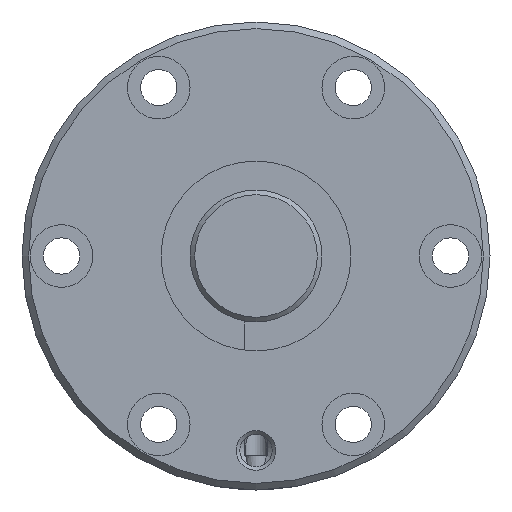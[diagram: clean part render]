
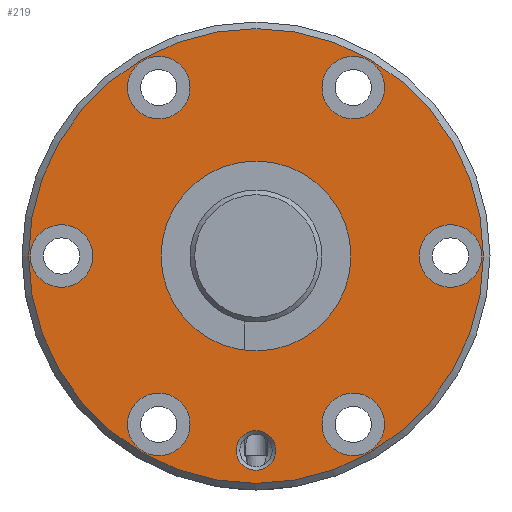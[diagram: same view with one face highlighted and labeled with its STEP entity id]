
A CAD part, left-side view. The second image highlights one B-rep face of the part: STEP entity #219.
In plain terms, the highlighted planar face has unit normal (-1, 0, 0).
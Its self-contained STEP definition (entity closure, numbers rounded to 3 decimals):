
#219 = ADVANCED_FACE( '', ( #390, #391, #392, #393, #394, #395, #396, #397, #398 ), #399, .T. );
#390 = FACE_BOUND( '', #629, .T. );
#391 = FACE_BOUND( '', #630, .T. );
#392 = FACE_BOUND( '', #631, .T. );
#393 = FACE_BOUND( '', #632, .T. );
#394 = FACE_BOUND( '', #633, .T. );
#395 = FACE_BOUND( '', #634, .T. );
#396 = FACE_BOUND( '', #635, .T. );
#397 = FACE_BOUND( '', #636, .T. );
#398 = FACE_OUTER_BOUND( '', #637, .T. );
#399 = PLANE( '', #638 );
#629 = EDGE_LOOP( '', ( #1059 ) );
#630 = EDGE_LOOP( '', ( #1060 ) );
#631 = EDGE_LOOP( '', ( #1061 ) );
#632 = EDGE_LOOP( '', ( #1062 ) );
#633 = EDGE_LOOP( '', ( #1063 ) );
#634 = EDGE_LOOP( '', ( #1064 ) );
#635 = EDGE_LOOP( '', ( #1065 ) );
#636 = EDGE_LOOP( '', ( #1066 ) );
#637 = EDGE_LOOP( '', ( #1067 ) );
#638 = AXIS2_PLACEMENT_3D( '', #1068, #1069, #1070 );
#1059 = ORIENTED_EDGE( '', *, *, #1342, .T. );
#1060 = ORIENTED_EDGE( '', *, *, #1343, .T. );
#1061 = ORIENTED_EDGE( '', *, *, #1265, .T. );
#1062 = ORIENTED_EDGE( '', *, *, #1341, .T. );
#1063 = ORIENTED_EDGE( '', *, *, #1344, .T. );
#1064 = ORIENTED_EDGE( '', *, *, #1345, .T. );
#1065 = ORIENTED_EDGE( '', *, *, #1346, .T. );
#1066 = ORIENTED_EDGE( '', *, *, #1347, .T. );
#1067 = ORIENTED_EDGE( '', *, *, #1348, .F. );
#1068 = CARTESIAN_POINT( '', ( 0., 34.5, 0. ) );
#1069 = DIRECTION( '', ( -1., 0., 0. ) );
#1070 = DIRECTION( '', ( 0., 0., 1. ) );
#1265 = EDGE_CURVE( '', #1419, #1419, #1420, .T. );
#1341 = EDGE_CURVE( '', #1549, #1549, #1550, .T. );
#1342 = EDGE_CURVE( '', #1551, #1551, #1552, .T. );
#1343 = EDGE_CURVE( '', #1553, #1553, #1554, .F. );
#1344 = EDGE_CURVE( '', #1555, #1555, #1556, .T. );
#1345 = EDGE_CURVE( '', #1557, #1557, #1558, .T. );
#1346 = EDGE_CURVE( '', #1559, #1559, #1560, .T. );
#1347 = EDGE_CURVE( '', #1561, #1561, #1562, .T. );
#1348 = EDGE_CURVE( '', #1563, #1563, #1564, .T. );
#1419 = VERTEX_POINT( '', #1760 );
#1420 = CIRCLE( '', #1761, 3. );
#1549 = VERTEX_POINT( '', #2110 );
#1550 = CIRCLE( '', #2111, 4.75 );
#1551 = VERTEX_POINT( '', #2112 );
#1552 = CIRCLE( '', #2113, 14.4 );
#1553 = VERTEX_POINT( '', #2114 );
#1554 = CIRCLE( '', #2115, 4.75 );
#1555 = VERTEX_POINT( '', #2116 );
#1556 = CIRCLE( '', #2117, 4.75 );
#1557 = VERTEX_POINT( '', #2118 );
#1558 = CIRCLE( '', #2119, 4.75 );
#1559 = VERTEX_POINT( '', #2120 );
#1560 = CIRCLE( '', #2121, 4.75 );
#1561 = VERTEX_POINT( '', #2122 );
#1562 = CIRCLE( '', #2123, 4.75 );
#1563 = VERTEX_POINT( '', #2124 );
#1564 = CIRCLE( '', #2125, 34.5 );
#1760 = CARTESIAN_POINT( '', ( 0., 0., -32.5 ) );
#1761 = AXIS2_PLACEMENT_3D( '', #2275, #2276, #2277 );
#2110 = CARTESIAN_POINT( '', ( 0., 14.75, 20.798 ) );
#2111 = AXIS2_PLACEMENT_3D( '', #2427, #2428, #2429 );
#2112 = CARTESIAN_POINT( '', ( 0., 0., -14.4 ) );
#2113 = AXIS2_PLACEMENT_3D( '', #2430, #2431, #2432 );
#2114 = CARTESIAN_POINT( '', ( 0., 29.5, 4.75 ) );
#2115 = AXIS2_PLACEMENT_3D( '', #2433, #2434, #2435 );
#2116 = CARTESIAN_POINT( '', ( 0., -14.75, -30.298 ) );
#2117 = AXIS2_PLACEMENT_3D( '', #2436, #2437, #2438 );
#2118 = CARTESIAN_POINT( '', ( 0., -14.75, 20.798 ) );
#2119 = AXIS2_PLACEMENT_3D( '', #2439, #2440, #2441 );
#2120 = CARTESIAN_POINT( '', ( 0., 14.75, -30.298 ) );
#2121 = AXIS2_PLACEMENT_3D( '', #2442, #2443, #2444 );
#2122 = CARTESIAN_POINT( '', ( 0., -29.5, -4.75 ) );
#2123 = AXIS2_PLACEMENT_3D( '', #2445, #2446, #2447 );
#2124 = CARTESIAN_POINT( '', ( 0., 0., -34.5 ) );
#2125 = AXIS2_PLACEMENT_3D( '', #2448, #2449, #2450 );
#2275 = CARTESIAN_POINT( '', ( 0., 0., -29.5 ) );
#2276 = DIRECTION( '', ( 1., 0., 0. ) );
#2277 = DIRECTION( '', ( 0., 0., -1. ) );
#2427 = CARTESIAN_POINT( '', ( 0., 14.75, 25.548 ) );
#2428 = DIRECTION( '', ( 1., 0., 0. ) );
#2429 = DIRECTION( '', ( 0., 0., -1. ) );
#2430 = CARTESIAN_POINT( '', ( 0., 0., 0. ) );
#2431 = DIRECTION( '', ( 1., 0., 0. ) );
#2432 = DIRECTION( '', ( 0., 0., -1. ) );
#2433 = CARTESIAN_POINT( '', ( 0., 29.5, 0. ) );
#2434 = DIRECTION( '', ( -1., 0., 0. ) );
#2435 = DIRECTION( '', ( 0., 0., 1. ) );
#2436 = CARTESIAN_POINT( '', ( 0., -14.75, -25.548 ) );
#2437 = DIRECTION( '', ( 1., 0., 0. ) );
#2438 = DIRECTION( '', ( 0., 0., -1. ) );
#2439 = CARTESIAN_POINT( '', ( 0., -14.75, 25.548 ) );
#2440 = DIRECTION( '', ( 1., 0., 0. ) );
#2441 = DIRECTION( '', ( 0., 0., -1. ) );
#2442 = CARTESIAN_POINT( '', ( 0., 14.75, -25.548 ) );
#2443 = DIRECTION( '', ( 1., 0., 0. ) );
#2444 = DIRECTION( '', ( 0., 0., -1. ) );
#2445 = CARTESIAN_POINT( '', ( 0., -29.5, 0. ) );
#2446 = DIRECTION( '', ( 1., 0., 0. ) );
#2447 = DIRECTION( '', ( 0., 0., -1. ) );
#2448 = CARTESIAN_POINT( '', ( 0., 0., 0. ) );
#2449 = DIRECTION( '', ( 1., 0., 0. ) );
#2450 = DIRECTION( '', ( 0., 0., -1. ) );
